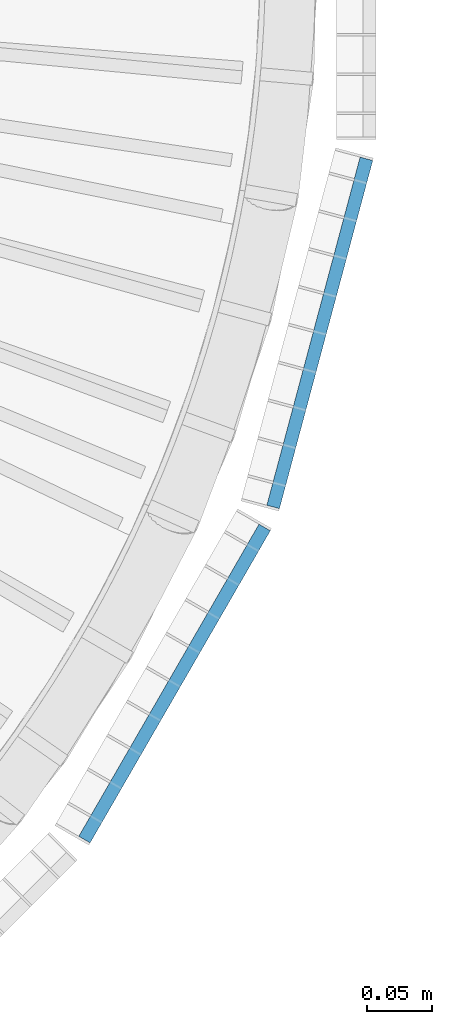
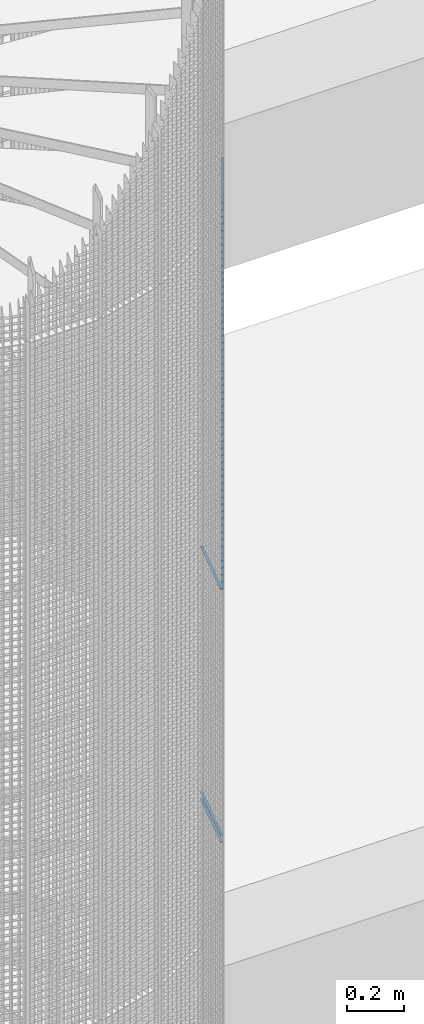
# One storey, part 245 of 1183: 59 beams, 2 elements without a shape of their own.
"""IFC2X3 building model written with IfcOpenShell, lengths in millimetres."""

from ifc_helpers import new_model, si_unit, frame, origin_with_axes, origin_2d_with_axis, place, context, subcontext, project, spatial, rectangle, extrude, material, type_object, element, aggregate, save


model = new_model("IFC2X3")

# Units and contexts
model_context = context("Model", 3, precision=1e-05, world=origin_with_axes())
body_context = subcontext(model_context, "Body", "Model", "MODEL_VIEW")
ifc_project = project(units=[si_unit("LENGTHUNIT", "METRE", prefix="MILLI"), si_unit("AREAUNIT", "SQUARE_METRE"), si_unit("VOLUMEUNIT", "CUBIC_METRE"), si_unit("MASSUNIT", "GRAM", prefix="KILO"), si_unit("TIMEUNIT", "SECOND"), si_unit("PLANEANGLEUNIT", "RADIAN"), si_unit("SOLIDANGLEUNIT", "STERADIAN"), si_unit("THERMODYNAMICTEMPERATUREUNIT", "DEGREE_CELSIUS"), si_unit("LUMINOUSINTENSITYUNIT", "LUMEN")], contexts=[model_context])

# Site, building, storey
site_placement = place(None, origin_with_axes())
site = spatial("IfcSite", under=ifc_project, at=site_placement, Name="Undefined", CompositionType="ELEMENT")
building_placement = place(site_placement, origin_with_axes())
building = spatial("IfcBuilding", under=site, at=building_placement, Name="Undefined", CompositionType="ELEMENT")
storey_placement = place(building_placement, origin_with_axes())
storey = spatial("IfcBuildingStorey", under=building, at=storey_placement, Name="Undefined", CompositionType="ELEMENT", Elevation=0.0)

# Assembly, beams
assembly_1_placement = place(storey_placement, origin_with_axes())
assembly_1 = element("IfcElementAssembly", 1, at=assembly_1_placement, inside=storey, Name="BORDURE", AssemblyPlace="NOTDEFINED", PredefinedType="NOTDEFINED")
ifc_material = material(Name="STEEL/S235JR")
beam_type = type_object("IfcBeamType", Name="PL2*10", PredefinedType="NOTDEFINED")
beam_1_placement = place(assembly_1_placement, frame((1039.82309522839, -421.483733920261, 9060.0), z_axis=(0.965925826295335, -0.258819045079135, 0.0), x_axis=(0.258819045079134, 0.965925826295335, 0.0)))
beam_1 = element("IfcBeam", 2, at=beam_1_placement, type_object=beam_type, material=ifc_material, Name="ENTRETOISE", context=body_context, shape_type="SweptSolid", body=[
    extrude(rectangle(XDim=2.0, YDim=10.0, at=origin_2d_with_axis()), frame((275.999999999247, 9.09494701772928e-13, 1.53210777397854e-14), z_axis=(-1.0, 0.0, 0.0), x_axis=(0.0, -1.0, 0.0)), (0.0, 0.0, 1.0), 276.0),
])
beam_2_placement = place(assembly_1_placement, frame((1039.82309522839, -421.483733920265, 10110.0), z_axis=(0.965925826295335, -0.258819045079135, 0.0), x_axis=(0.258819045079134, 0.965925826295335, 0.0)))
beam_2 = element("IfcBeam", 3, at=beam_2_placement, type_object=beam_type, material=ifc_material, Name="ENTRETOISE", context=body_context, shape_type="SweptSolid", body=[
    extrude(rectangle(XDim=2.0, YDim=10.0, at=origin_2d_with_axis()), frame((275.999999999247, 9.09494701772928e-13, 1.53210777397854e-14), z_axis=(-1.0, 0.0, 0.0), x_axis=(0.0, -1.0, 0.0)), (0.0, 0.0, 1.0), 276.0),
])
beam_3_placement = place(assembly_1_placement, frame((1039.82309522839, -421.48373392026, 9030.0), z_axis=(0.965925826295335, -0.258819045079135, 0.0), x_axis=(0.258819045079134, 0.965925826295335, 0.0)))
beam_3 = element("IfcBeam", 4, at=beam_3_placement, type_object=beam_type, material=ifc_material, Name="ENTRETOISE", context=body_context, shape_type="SweptSolid", body=[
    extrude(rectangle(XDim=2.0, YDim=10.0, at=origin_2d_with_axis()), frame((275.999999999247, 9.09494701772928e-13, 1.53210777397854e-14), z_axis=(-1.0, 0.0, 0.0), x_axis=(0.0, -1.0, 0.0)), (0.0, 0.0, 1.0), 276.0),
])
aggregate(assembly_1, [beam_1, beam_2, beam_3])

assembly_2_placement = place(storey_placement, origin_with_axes())
assembly_2 = element("IfcElementAssembly", 5, at=assembly_2_placement, inside=storey, Name="BORDURE", AssemblyPlace="NOTDEFINED", PredefinedType="NOTDEFINED")
beam_4_placement = place(assembly_2_placement, frame((895.303964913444, -676.248044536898, 11970.0), z_axis=(0.866025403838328, -0.49999999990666, 0.0), x_axis=(0.49999999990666, 0.866025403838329, 0.0)))
beam_4 = element("IfcBeam", 6, at=beam_4_placement, type_object=beam_type, material=ifc_material, Name="ENTRETOISE", context=body_context, shape_type="SweptSolid", body=[
    extrude(rectangle(XDim=2.0, YDim=10.0, at=origin_2d_with_axis()), frame((275.999999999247, 9.09494701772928e-13, 1.53210777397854e-14), z_axis=(-1.0, 0.0, 0.0), x_axis=(0.0, -1.0, 0.0)), (0.0, 0.0, 1.0), 276.0),
])
beam_5_placement = place(assembly_2_placement, frame((895.303964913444, -676.248044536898, 11940.0), z_axis=(0.866025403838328, -0.49999999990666, 0.0), x_axis=(0.49999999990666, 0.866025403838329, 0.0)))
beam_5 = element("IfcBeam", 7, at=beam_5_placement, type_object=beam_type, material=ifc_material, Name="ENTRETOISE", context=body_context, shape_type="SweptSolid", body=[
    extrude(rectangle(XDim=2.0, YDim=10.0, at=origin_2d_with_axis()), frame((275.999999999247, 9.09494701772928e-13, 1.53210777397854e-14), z_axis=(-1.0, 0.0, 0.0), x_axis=(0.0, -1.0, 0.0)), (0.0, 0.0, 1.0), 276.0),
])
beam_6_placement = place(assembly_2_placement, frame((895.303964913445, -676.248044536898, 11910.0), z_axis=(0.866025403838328, -0.49999999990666, 0.0), x_axis=(0.49999999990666, 0.866025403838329, 0.0)))
beam_6 = element("IfcBeam", 8, at=beam_6_placement, type_object=beam_type, material=ifc_material, Name="ENTRETOISE", context=body_context, shape_type="SweptSolid", body=[
    extrude(rectangle(XDim=2.0, YDim=10.0, at=origin_2d_with_axis()), frame((275.999999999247, 9.09494701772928e-13, 1.53210777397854e-14), z_axis=(-1.0, 0.0, 0.0), x_axis=(0.0, -1.0, 0.0)), (0.0, 0.0, 1.0), 276.0),
])
beam_7_placement = place(assembly_2_placement, frame((895.303964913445, -676.248044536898, 11880.0), z_axis=(0.866025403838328, -0.49999999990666, 0.0), x_axis=(0.49999999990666, 0.866025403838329, 0.0)))
beam_7 = element("IfcBeam", 9, at=beam_7_placement, type_object=beam_type, material=ifc_material, Name="ENTRETOISE", context=body_context, shape_type="SweptSolid", body=[
    extrude(rectangle(XDim=2.0, YDim=10.0, at=origin_2d_with_axis()), frame((275.999999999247, 9.09494701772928e-13, 1.53210777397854e-14), z_axis=(-1.0, 0.0, 0.0), x_axis=(0.0, -1.0, 0.0)), (0.0, 0.0, 1.0), 276.0),
])
beam_8_placement = place(assembly_2_placement, frame((895.303964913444, -676.248044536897, 11850.0), z_axis=(0.866025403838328, -0.49999999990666, 0.0), x_axis=(0.49999999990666, 0.866025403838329, 0.0)))
beam_8 = element("IfcBeam", 10, at=beam_8_placement, type_object=beam_type, material=ifc_material, Name="ENTRETOISE", context=body_context, shape_type="SweptSolid", body=[
    extrude(rectangle(XDim=2.0, YDim=10.0, at=origin_2d_with_axis()), frame((275.999999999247, 9.09494701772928e-13, 1.53210777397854e-14), z_axis=(-1.0, 0.0, 0.0), x_axis=(0.0, -1.0, 0.0)), (0.0, 0.0, 1.0), 276.0),
])
beam_9_placement = place(assembly_2_placement, frame((895.303964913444, -676.248044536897, 11820.0), z_axis=(0.866025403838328, -0.49999999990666, 0.0), x_axis=(0.49999999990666, 0.866025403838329, 0.0)))
beam_9 = element("IfcBeam", 11, at=beam_9_placement, type_object=beam_type, material=ifc_material, Name="ENTRETOISE", context=body_context, shape_type="SweptSolid", body=[
    extrude(rectangle(XDim=2.0, YDim=10.0, at=origin_2d_with_axis()), frame((275.999999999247, 9.09494701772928e-13, 1.53210777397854e-14), z_axis=(-1.0, 0.0, 0.0), x_axis=(0.0, -1.0, 0.0)), (0.0, 0.0, 1.0), 276.0),
])
beam_10_placement = place(assembly_2_placement, frame((895.303964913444, -676.248044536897, 11790.0), z_axis=(0.866025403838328, -0.49999999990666, 0.0), x_axis=(0.49999999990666, 0.866025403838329, 0.0)))
beam_10 = element("IfcBeam", 12, at=beam_10_placement, type_object=beam_type, material=ifc_material, Name="ENTRETOISE", context=body_context, shape_type="SweptSolid", body=[
    extrude(rectangle(XDim=2.0, YDim=10.0, at=origin_2d_with_axis()), frame((275.999999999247, 9.09494701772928e-13, 1.53210777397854e-14), z_axis=(-1.0, 0.0, 0.0), x_axis=(0.0, -1.0, 0.0)), (0.0, 0.0, 1.0), 276.0),
])
beam_11_placement = place(assembly_2_placement, frame((895.303964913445, -676.248044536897, 11760.0), z_axis=(0.866025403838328, -0.49999999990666, 0.0), x_axis=(0.49999999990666, 0.866025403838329, 0.0)))
beam_11 = element("IfcBeam", 13, at=beam_11_placement, type_object=beam_type, material=ifc_material, Name="ENTRETOISE", context=body_context, shape_type="SweptSolid", body=[
    extrude(rectangle(XDim=2.0, YDim=10.0, at=origin_2d_with_axis()), frame((275.999999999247, 9.09494701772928e-13, 1.53210777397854e-14), z_axis=(-1.0, 0.0, 0.0), x_axis=(0.0, -1.0, 0.0)), (0.0, 0.0, 1.0), 276.0),
])
beam_12_placement = place(assembly_2_placement, frame((895.303964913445, -676.248044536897, 11730.0), z_axis=(0.866025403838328, -0.49999999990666, 0.0), x_axis=(0.49999999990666, 0.866025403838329, 0.0)))
beam_12 = element("IfcBeam", 14, at=beam_12_placement, type_object=beam_type, material=ifc_material, Name="ENTRETOISE", context=body_context, shape_type="SweptSolid", body=[
    extrude(rectangle(XDim=2.0, YDim=10.0, at=origin_2d_with_axis()), frame((275.999999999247, 9.09494701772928e-13, 1.53210777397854e-14), z_axis=(-1.0, 0.0, 0.0), x_axis=(0.0, -1.0, 0.0)), (0.0, 0.0, 1.0), 276.0),
])
beam_13_placement = place(assembly_2_placement, frame((895.303964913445, -676.248044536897, 11700.0), z_axis=(0.866025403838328, -0.49999999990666, 0.0), x_axis=(0.49999999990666, 0.866025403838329, 0.0)))
beam_13 = element("IfcBeam", 15, at=beam_13_placement, type_object=beam_type, material=ifc_material, Name="ENTRETOISE", context=body_context, shape_type="SweptSolid", body=[
    extrude(rectangle(XDim=2.0, YDim=10.0, at=origin_2d_with_axis()), frame((275.999999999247, 9.09494701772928e-13, 1.53210777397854e-14), z_axis=(-1.0, 0.0, 0.0), x_axis=(0.0, -1.0, 0.0)), (0.0, 0.0, 1.0), 276.0),
])
beam_14_placement = place(assembly_2_placement, frame((895.303964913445, -676.248044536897, 11670.0), z_axis=(0.866025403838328, -0.49999999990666, 0.0), x_axis=(0.49999999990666, 0.866025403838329, 0.0)))
beam_14 = element("IfcBeam", 16, at=beam_14_placement, type_object=beam_type, material=ifc_material, Name="ENTRETOISE", context=body_context, shape_type="SweptSolid", body=[
    extrude(rectangle(XDim=2.0, YDim=10.0, at=origin_2d_with_axis()), frame((275.999999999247, 9.09494701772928e-13, 1.53210777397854e-14), z_axis=(-1.0, 0.0, 0.0), x_axis=(0.0, -1.0, 0.0)), (0.0, 0.0, 1.0), 276.0),
])
beam_15_placement = place(assembly_2_placement, frame((895.303964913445, -676.248044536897, 11640.0), z_axis=(0.866025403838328, -0.49999999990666, 0.0), x_axis=(0.49999999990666, 0.866025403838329, 0.0)))
beam_15 = element("IfcBeam", 17, at=beam_15_placement, type_object=beam_type, material=ifc_material, Name="ENTRETOISE", context=body_context, shape_type="SweptSolid", body=[
    extrude(rectangle(XDim=2.0, YDim=10.0, at=origin_2d_with_axis()), frame((275.999999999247, 9.09494701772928e-13, 1.53210777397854e-14), z_axis=(-1.0, 0.0, 0.0), x_axis=(0.0, -1.0, 0.0)), (0.0, 0.0, 1.0), 276.0),
])
beam_16_placement = place(assembly_2_placement, frame((895.303964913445, -676.248044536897, 11610.0), z_axis=(0.866025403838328, -0.49999999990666, 0.0), x_axis=(0.49999999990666, 0.866025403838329, 0.0)))
beam_16 = element("IfcBeam", 18, at=beam_16_placement, type_object=beam_type, material=ifc_material, Name="ENTRETOISE", context=body_context, shape_type="SweptSolid", body=[
    extrude(rectangle(XDim=2.0, YDim=10.0, at=origin_2d_with_axis()), frame((275.999999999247, 9.09494701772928e-13, 1.53210777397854e-14), z_axis=(-1.0, 0.0, 0.0), x_axis=(0.0, -1.0, 0.0)), (0.0, 0.0, 1.0), 276.0),
])
beam_17_placement = place(assembly_2_placement, frame((895.303964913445, -676.248044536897, 11580.0), z_axis=(0.866025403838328, -0.49999999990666, 0.0), x_axis=(0.49999999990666, 0.866025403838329, 0.0)))
beam_17 = element("IfcBeam", 19, at=beam_17_placement, type_object=beam_type, material=ifc_material, Name="ENTRETOISE", context=body_context, shape_type="SweptSolid", body=[
    extrude(rectangle(XDim=2.0, YDim=10.0, at=origin_2d_with_axis()), frame((275.999999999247, 9.09494701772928e-13, 1.53210777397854e-14), z_axis=(-1.0, 0.0, 0.0), x_axis=(0.0, -1.0, 0.0)), (0.0, 0.0, 1.0), 276.0),
])
beam_18_placement = place(assembly_2_placement, frame((895.303964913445, -676.248044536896, 11550.0), z_axis=(0.866025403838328, -0.49999999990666, 0.0), x_axis=(0.49999999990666, 0.866025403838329, 0.0)))
beam_18 = element("IfcBeam", 20, at=beam_18_placement, type_object=beam_type, material=ifc_material, Name="ENTRETOISE", context=body_context, shape_type="SweptSolid", body=[
    extrude(rectangle(XDim=2.0, YDim=10.0, at=origin_2d_with_axis()), frame((275.999999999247, 9.09494701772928e-13, 1.53210777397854e-14), z_axis=(-1.0, 0.0, 0.0), x_axis=(0.0, -1.0, 0.0)), (0.0, 0.0, 1.0), 276.0),
])
beam_19_placement = place(assembly_2_placement, frame((895.303964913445, -676.248044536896, 11520.0), z_axis=(0.866025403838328, -0.49999999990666, 0.0), x_axis=(0.49999999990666, 0.866025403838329, 0.0)))
beam_19 = element("IfcBeam", 21, at=beam_19_placement, type_object=beam_type, material=ifc_material, Name="ENTRETOISE", context=body_context, shape_type="SweptSolid", body=[
    extrude(rectangle(XDim=2.0, YDim=10.0, at=origin_2d_with_axis()), frame((275.999999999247, 9.09494701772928e-13, 1.53210777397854e-14), z_axis=(-1.0, 0.0, 0.0), x_axis=(0.0, -1.0, 0.0)), (0.0, 0.0, 1.0), 276.0),
])
beam_20_placement = place(assembly_2_placement, frame((895.303964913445, -676.248044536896, 11490.0), z_axis=(0.866025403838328, -0.49999999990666, 0.0), x_axis=(0.49999999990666, 0.866025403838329, 0.0)))
beam_20 = element("IfcBeam", 22, at=beam_20_placement, type_object=beam_type, material=ifc_material, Name="ENTRETOISE", context=body_context, shape_type="SweptSolid", body=[
    extrude(rectangle(XDim=2.0, YDim=10.0, at=origin_2d_with_axis()), frame((275.999999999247, 9.09494701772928e-13, 1.53210777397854e-14), z_axis=(-1.0, 0.0, 0.0), x_axis=(0.0, -1.0, 0.0)), (0.0, 0.0, 1.0), 276.0),
])
beam_21_placement = place(assembly_2_placement, frame((895.303964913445, -676.248044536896, 11460.0), z_axis=(0.866025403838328, -0.49999999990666, 0.0), x_axis=(0.49999999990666, 0.866025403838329, 0.0)))
beam_21 = element("IfcBeam", 23, at=beam_21_placement, type_object=beam_type, material=ifc_material, Name="ENTRETOISE", context=body_context, shape_type="SweptSolid", body=[
    extrude(rectangle(XDim=2.0, YDim=10.0, at=origin_2d_with_axis()), frame((275.999999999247, 9.09494701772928e-13, 1.53210777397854e-14), z_axis=(-1.0, 0.0, 0.0), x_axis=(0.0, -1.0, 0.0)), (0.0, 0.0, 1.0), 276.0),
])
beam_22_placement = place(assembly_2_placement, frame((895.303964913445, -676.248044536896, 11430.0), z_axis=(0.866025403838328, -0.49999999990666, 0.0), x_axis=(0.49999999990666, 0.866025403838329, 0.0)))
beam_22 = element("IfcBeam", 24, at=beam_22_placement, type_object=beam_type, material=ifc_material, Name="ENTRETOISE", context=body_context, shape_type="SweptSolid", body=[
    extrude(rectangle(XDim=2.0, YDim=10.0, at=origin_2d_with_axis()), frame((275.999999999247, 9.09494701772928e-13, 1.53210777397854e-14), z_axis=(-1.0, 0.0, 0.0), x_axis=(0.0, -1.0, 0.0)), (0.0, 0.0, 1.0), 276.0),
])
beam_23_placement = place(assembly_2_placement, frame((895.303964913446, -676.248044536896, 11400.0), z_axis=(0.866025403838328, -0.49999999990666, 0.0), x_axis=(0.49999999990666, 0.866025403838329, 0.0)))
beam_23 = element("IfcBeam", 25, at=beam_23_placement, type_object=beam_type, material=ifc_material, Name="ENTRETOISE", context=body_context, shape_type="SweptSolid", body=[
    extrude(rectangle(XDim=2.0, YDim=10.0, at=origin_2d_with_axis()), frame((275.999999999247, 9.09494701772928e-13, 1.53210777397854e-14), z_axis=(-1.0, 0.0, 0.0), x_axis=(0.0, -1.0, 0.0)), (0.0, 0.0, 1.0), 276.0),
])
beam_24_placement = place(assembly_2_placement, frame((895.303964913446, -676.248044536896, 11370.0), z_axis=(0.866025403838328, -0.49999999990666, 0.0), x_axis=(0.49999999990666, 0.866025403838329, 0.0)))
beam_24 = element("IfcBeam", 26, at=beam_24_placement, type_object=beam_type, material=ifc_material, Name="ENTRETOISE", context=body_context, shape_type="SweptSolid", body=[
    extrude(rectangle(XDim=2.0, YDim=10.0, at=origin_2d_with_axis()), frame((275.999999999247, 9.09494701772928e-13, 1.53210777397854e-14), z_axis=(-1.0, 0.0, 0.0), x_axis=(0.0, -1.0, 0.0)), (0.0, 0.0, 1.0), 276.0),
])
beam_25_placement = place(assembly_2_placement, frame((895.303964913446, -676.248044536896, 11340.0), z_axis=(0.866025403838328, -0.49999999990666, 0.0), x_axis=(0.49999999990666, 0.866025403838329, 0.0)))
beam_25 = element("IfcBeam", 27, at=beam_25_placement, type_object=beam_type, material=ifc_material, Name="ENTRETOISE", context=body_context, shape_type="SweptSolid", body=[
    extrude(rectangle(XDim=2.0, YDim=10.0, at=origin_2d_with_axis()), frame((275.999999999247, 9.09494701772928e-13, 1.53210777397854e-14), z_axis=(-1.0, 0.0, 0.0), x_axis=(0.0, -1.0, 0.0)), (0.0, 0.0, 1.0), 276.0),
])
beam_26_placement = place(assembly_2_placement, frame((895.303964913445, -676.248044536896, 11310.0), z_axis=(0.866025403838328, -0.49999999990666, 0.0), x_axis=(0.49999999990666, 0.866025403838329, 0.0)))
beam_26 = element("IfcBeam", 28, at=beam_26_placement, type_object=beam_type, material=ifc_material, Name="ENTRETOISE", context=body_context, shape_type="SweptSolid", body=[
    extrude(rectangle(XDim=2.0, YDim=10.0, at=origin_2d_with_axis()), frame((275.999999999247, 9.09494701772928e-13, 1.53210777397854e-14), z_axis=(-1.0, 0.0, 0.0), x_axis=(0.0, -1.0, 0.0)), (0.0, 0.0, 1.0), 276.0),
])
beam_27_placement = place(assembly_2_placement, frame((895.303964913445, -676.248044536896, 11280.0), z_axis=(0.866025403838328, -0.49999999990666, 0.0), x_axis=(0.49999999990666, 0.866025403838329, 0.0)))
beam_27 = element("IfcBeam", 29, at=beam_27_placement, type_object=beam_type, material=ifc_material, Name="ENTRETOISE", context=body_context, shape_type="SweptSolid", body=[
    extrude(rectangle(XDim=2.0, YDim=10.0, at=origin_2d_with_axis()), frame((275.999999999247, 9.09494701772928e-13, 1.53210777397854e-14), z_axis=(-1.0, 0.0, 0.0), x_axis=(0.0, -1.0, 0.0)), (0.0, 0.0, 1.0), 276.0),
])
beam_28_placement = place(assembly_2_placement, frame((895.303964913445, -676.248044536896, 11250.0), z_axis=(0.866025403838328, -0.49999999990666, 0.0), x_axis=(0.49999999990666, 0.866025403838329, 0.0)))
beam_28 = element("IfcBeam", 30, at=beam_28_placement, type_object=beam_type, material=ifc_material, Name="ENTRETOISE", context=body_context, shape_type="SweptSolid", body=[
    extrude(rectangle(XDim=2.0, YDim=10.0, at=origin_2d_with_axis()), frame((275.999999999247, 9.09494701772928e-13, 1.53210777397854e-14), z_axis=(-1.0, 0.0, 0.0), x_axis=(0.0, -1.0, 0.0)), (0.0, 0.0, 1.0), 276.0),
])
beam_29_placement = place(assembly_2_placement, frame((895.303964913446, -676.248044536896, 11220.0), z_axis=(0.866025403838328, -0.49999999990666, 0.0), x_axis=(0.49999999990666, 0.866025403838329, 0.0)))
beam_29 = element("IfcBeam", 31, at=beam_29_placement, type_object=beam_type, material=ifc_material, Name="ENTRETOISE", context=body_context, shape_type="SweptSolid", body=[
    extrude(rectangle(XDim=2.0, YDim=10.0, at=origin_2d_with_axis()), frame((275.999999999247, 9.09494701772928e-13, 1.53210777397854e-14), z_axis=(-1.0, 0.0, 0.0), x_axis=(0.0, -1.0, 0.0)), (0.0, 0.0, 1.0), 276.0),
])
beam_30_placement = place(assembly_2_placement, frame((895.303964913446, -676.248044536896, 11190.0), z_axis=(0.866025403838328, -0.49999999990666, 0.0), x_axis=(0.49999999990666, 0.866025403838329, 0.0)))
beam_30 = element("IfcBeam", 32, at=beam_30_placement, type_object=beam_type, material=ifc_material, Name="ENTRETOISE", context=body_context, shape_type="SweptSolid", body=[
    extrude(rectangle(XDim=2.0, YDim=10.0, at=origin_2d_with_axis()), frame((275.999999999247, 9.09494701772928e-13, 1.53210777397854e-14), z_axis=(-1.0, 0.0, 0.0), x_axis=(0.0, -1.0, 0.0)), (0.0, 0.0, 1.0), 276.0),
])
beam_31_placement = place(assembly_2_placement, frame((895.303964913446, -676.248044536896, 11160.0), z_axis=(0.866025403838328, -0.49999999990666, 0.0), x_axis=(0.49999999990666, 0.866025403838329, 0.0)))
beam_31 = element("IfcBeam", 33, at=beam_31_placement, type_object=beam_type, material=ifc_material, Name="ENTRETOISE", context=body_context, shape_type="SweptSolid", body=[
    extrude(rectangle(XDim=2.0, YDim=10.0, at=origin_2d_with_axis()), frame((275.999999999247, 9.09494701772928e-13, 1.53210777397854e-14), z_axis=(-1.0, 0.0, 0.0), x_axis=(0.0, -1.0, 0.0)), (0.0, 0.0, 1.0), 276.0),
])
beam_32_placement = place(assembly_2_placement, frame((895.303964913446, -676.248044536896, 11130.0), z_axis=(0.866025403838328, -0.49999999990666, 0.0), x_axis=(0.49999999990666, 0.866025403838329, 0.0)))
beam_32 = element("IfcBeam", 34, at=beam_32_placement, type_object=beam_type, material=ifc_material, Name="ENTRETOISE", context=body_context, shape_type="SweptSolid", body=[
    extrude(rectangle(XDim=2.0, YDim=10.0, at=origin_2d_with_axis()), frame((275.999999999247, 9.09494701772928e-13, 1.53210777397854e-14), z_axis=(-1.0, 0.0, 0.0), x_axis=(0.0, -1.0, 0.0)), (0.0, 0.0, 1.0), 276.0),
])
beam_33_placement = place(assembly_2_placement, frame((895.303964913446, -676.248044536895, 11100.0), z_axis=(0.866025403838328, -0.49999999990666, 0.0), x_axis=(0.49999999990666, 0.866025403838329, 0.0)))
beam_33 = element("IfcBeam", 35, at=beam_33_placement, type_object=beam_type, material=ifc_material, Name="ENTRETOISE", context=body_context, shape_type="SweptSolid", body=[
    extrude(rectangle(XDim=2.0, YDim=10.0, at=origin_2d_with_axis()), frame((275.999999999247, 9.09494701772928e-13, 1.53210777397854e-14), z_axis=(-1.0, 0.0, 0.0), x_axis=(0.0, -1.0, 0.0)), (0.0, 0.0, 1.0), 276.0),
])
beam_34_placement = place(assembly_2_placement, frame((895.303964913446, -676.248044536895, 11070.0), z_axis=(0.866025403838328, -0.49999999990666, 0.0), x_axis=(0.49999999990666, 0.866025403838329, 0.0)))
beam_34 = element("IfcBeam", 36, at=beam_34_placement, type_object=beam_type, material=ifc_material, Name="ENTRETOISE", context=body_context, shape_type="SweptSolid", body=[
    extrude(rectangle(XDim=2.0, YDim=10.0, at=origin_2d_with_axis()), frame((275.999999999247, 9.09494701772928e-13, 1.53210777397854e-14), z_axis=(-1.0, 0.0, 0.0), x_axis=(0.0, -1.0, 0.0)), (0.0, 0.0, 1.0), 276.0),
])
beam_35_placement = place(assembly_2_placement, frame((895.303964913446, -676.248044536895, 11040.0), z_axis=(0.866025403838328, -0.49999999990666, 0.0), x_axis=(0.49999999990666, 0.866025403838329, 0.0)))
beam_35 = element("IfcBeam", 37, at=beam_35_placement, type_object=beam_type, material=ifc_material, Name="ENTRETOISE", context=body_context, shape_type="SweptSolid", body=[
    extrude(rectangle(XDim=2.0, YDim=10.0, at=origin_2d_with_axis()), frame((275.999999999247, 9.09494701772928e-13, 1.53210777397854e-14), z_axis=(-1.0, 0.0, 0.0), x_axis=(0.0, -1.0, 0.0)), (0.0, 0.0, 1.0), 276.0),
])
beam_36_placement = place(assembly_2_placement, frame((895.303964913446, -676.248044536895, 11010.0), z_axis=(0.866025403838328, -0.49999999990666, 0.0), x_axis=(0.49999999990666, 0.866025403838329, 0.0)))
beam_36 = element("IfcBeam", 38, at=beam_36_placement, type_object=beam_type, material=ifc_material, Name="ENTRETOISE", context=body_context, shape_type="SweptSolid", body=[
    extrude(rectangle(XDim=2.0, YDim=10.0, at=origin_2d_with_axis()), frame((275.999999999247, 9.09494701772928e-13, 1.53210777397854e-14), z_axis=(-1.0, 0.0, 0.0), x_axis=(0.0, -1.0, 0.0)), (0.0, 0.0, 1.0), 276.0),
])
beam_37_placement = place(assembly_2_placement, frame((895.303964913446, -676.248044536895, 10980.0), z_axis=(0.866025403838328, -0.49999999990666, 0.0), x_axis=(0.49999999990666, 0.866025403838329, 0.0)))
beam_37 = element("IfcBeam", 39, at=beam_37_placement, type_object=beam_type, material=ifc_material, Name="ENTRETOISE", context=body_context, shape_type="SweptSolid", body=[
    extrude(rectangle(XDim=2.0, YDim=10.0, at=origin_2d_with_axis()), frame((275.999999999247, 9.09494701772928e-13, 1.53210777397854e-14), z_axis=(-1.0, 0.0, 0.0), x_axis=(0.0, -1.0, 0.0)), (0.0, 0.0, 1.0), 276.0),
])
beam_38_placement = place(assembly_2_placement, frame((895.303964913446, -676.248044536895, 10950.0), z_axis=(0.866025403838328, -0.49999999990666, 0.0), x_axis=(0.49999999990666, 0.866025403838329, 0.0)))
beam_38 = element("IfcBeam", 40, at=beam_38_placement, type_object=beam_type, material=ifc_material, Name="ENTRETOISE", context=body_context, shape_type="SweptSolid", body=[
    extrude(rectangle(XDim=2.0, YDim=10.0, at=origin_2d_with_axis()), frame((275.999999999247, 9.09494701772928e-13, 1.53210777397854e-14), z_axis=(-1.0, 0.0, 0.0), x_axis=(0.0, -1.0, 0.0)), (0.0, 0.0, 1.0), 276.0),
])
beam_39_placement = place(assembly_2_placement, frame((895.303964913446, -676.248044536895, 10920.0), z_axis=(0.866025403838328, -0.49999999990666, 0.0), x_axis=(0.49999999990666, 0.866025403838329, 0.0)))
beam_39 = element("IfcBeam", 41, at=beam_39_placement, type_object=beam_type, material=ifc_material, Name="ENTRETOISE", context=body_context, shape_type="SweptSolid", body=[
    extrude(rectangle(XDim=2.0, YDim=10.0, at=origin_2d_with_axis()), frame((275.999999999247, 9.09494701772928e-13, 1.53210777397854e-14), z_axis=(-1.0, 0.0, 0.0), x_axis=(0.0, -1.0, 0.0)), (0.0, 0.0, 1.0), 276.0),
])
beam_40_placement = place(assembly_2_placement, frame((895.303964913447, -676.248044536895, 10890.0), z_axis=(0.866025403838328, -0.49999999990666, 0.0), x_axis=(0.49999999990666, 0.866025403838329, 0.0)))
beam_40 = element("IfcBeam", 42, at=beam_40_placement, type_object=beam_type, material=ifc_material, Name="ENTRETOISE", context=body_context, shape_type="SweptSolid", body=[
    extrude(rectangle(XDim=2.0, YDim=10.0, at=origin_2d_with_axis()), frame((275.999999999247, 9.09494701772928e-13, 1.53210777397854e-14), z_axis=(-1.0, 0.0, 0.0), x_axis=(0.0, -1.0, 0.0)), (0.0, 0.0, 1.0), 276.0),
])
beam_41_placement = place(assembly_2_placement, frame((895.303964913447, -676.248044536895, 10860.0), z_axis=(0.866025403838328, -0.49999999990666, 0.0), x_axis=(0.49999999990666, 0.866025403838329, 0.0)))
beam_41 = element("IfcBeam", 43, at=beam_41_placement, type_object=beam_type, material=ifc_material, Name="ENTRETOISE", context=body_context, shape_type="SweptSolid", body=[
    extrude(rectangle(XDim=2.0, YDim=10.0, at=origin_2d_with_axis()), frame((275.999999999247, 9.09494701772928e-13, 1.53210777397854e-14), z_axis=(-1.0, 0.0, 0.0), x_axis=(0.0, -1.0, 0.0)), (0.0, 0.0, 1.0), 276.0),
])
beam_42_placement = place(assembly_2_placement, frame((895.303964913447, -676.248044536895, 10830.0), z_axis=(0.866025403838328, -0.49999999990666, 0.0), x_axis=(0.49999999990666, 0.866025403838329, 0.0)))
beam_42 = element("IfcBeam", 44, at=beam_42_placement, type_object=beam_type, material=ifc_material, Name="ENTRETOISE", context=body_context, shape_type="SweptSolid", body=[
    extrude(rectangle(XDim=2.0, YDim=10.0, at=origin_2d_with_axis()), frame((275.999999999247, 9.09494701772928e-13, 1.53210777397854e-14), z_axis=(-1.0, 0.0, 0.0), x_axis=(0.0, -1.0, 0.0)), (0.0, 0.0, 1.0), 276.0),
])
beam_43_placement = place(assembly_2_placement, frame((895.303964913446, -676.248044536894, 10800.0), z_axis=(0.866025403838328, -0.49999999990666, 0.0), x_axis=(0.49999999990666, 0.866025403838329, 0.0)))
beam_43 = element("IfcBeam", 45, at=beam_43_placement, type_object=beam_type, material=ifc_material, Name="ENTRETOISE", context=body_context, shape_type="SweptSolid", body=[
    extrude(rectangle(XDim=2.0, YDim=10.0, at=origin_2d_with_axis()), frame((275.999999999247, 9.09494701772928e-13, 1.53210777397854e-14), z_axis=(-1.0, 0.0, 0.0), x_axis=(0.0, -1.0, 0.0)), (0.0, 0.0, 1.0), 276.0),
])
beam_44_placement = place(assembly_2_placement, frame((895.303964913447, -676.248044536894, 10770.0), z_axis=(0.866025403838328, -0.49999999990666, 0.0), x_axis=(0.49999999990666, 0.866025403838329, 0.0)))
beam_44 = element("IfcBeam", 46, at=beam_44_placement, type_object=beam_type, material=ifc_material, Name="ENTRETOISE", context=body_context, shape_type="SweptSolid", body=[
    extrude(rectangle(XDim=2.0, YDim=10.0, at=origin_2d_with_axis()), frame((275.999999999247, 9.09494701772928e-13, 1.53210777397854e-14), z_axis=(-1.0, 0.0, 0.0), x_axis=(0.0, -1.0, 0.0)), (0.0, 0.0, 1.0), 276.0),
])
beam_45_placement = place(assembly_2_placement, frame((895.303964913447, -676.248044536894, 10740.0), z_axis=(0.866025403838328, -0.49999999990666, 0.0), x_axis=(0.49999999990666, 0.866025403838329, 0.0)))
beam_45 = element("IfcBeam", 47, at=beam_45_placement, type_object=beam_type, material=ifc_material, Name="ENTRETOISE", context=body_context, shape_type="SweptSolid", body=[
    extrude(rectangle(XDim=2.0, YDim=10.0, at=origin_2d_with_axis()), frame((275.999999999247, 9.09494701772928e-13, 1.53210777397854e-14), z_axis=(-1.0, 0.0, 0.0), x_axis=(0.0, -1.0, 0.0)), (0.0, 0.0, 1.0), 276.0),
])
beam_46_placement = place(assembly_2_placement, frame((895.303964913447, -676.248044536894, 10710.0), z_axis=(0.866025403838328, -0.49999999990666, 0.0), x_axis=(0.49999999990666, 0.866025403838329, 0.0)))
beam_46 = element("IfcBeam", 48, at=beam_46_placement, type_object=beam_type, material=ifc_material, Name="ENTRETOISE", context=body_context, shape_type="SweptSolid", body=[
    extrude(rectangle(XDim=2.0, YDim=10.0, at=origin_2d_with_axis()), frame((275.999999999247, 9.09494701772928e-13, 1.53210777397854e-14), z_axis=(-1.0, 0.0, 0.0), x_axis=(0.0, -1.0, 0.0)), (0.0, 0.0, 1.0), 276.0),
])
beam_47_placement = place(assembly_2_placement, frame((895.303964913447, -676.248044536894, 10680.0), z_axis=(0.866025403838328, -0.49999999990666, 0.0), x_axis=(0.49999999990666, 0.866025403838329, 0.0)))
beam_47 = element("IfcBeam", 49, at=beam_47_placement, type_object=beam_type, material=ifc_material, Name="ENTRETOISE", context=body_context, shape_type="SweptSolid", body=[
    extrude(rectangle(XDim=2.0, YDim=10.0, at=origin_2d_with_axis()), frame((275.999999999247, 9.09494701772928e-13, 1.53210777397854e-14), z_axis=(-1.0, 0.0, 0.0), x_axis=(0.0, -1.0, 0.0)), (0.0, 0.0, 1.0), 276.0),
])
beam_48_placement = place(assembly_2_placement, frame((895.303964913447, -676.248044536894, 10650.0), z_axis=(0.866025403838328, -0.49999999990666, 0.0), x_axis=(0.49999999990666, 0.866025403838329, 0.0)))
beam_48 = element("IfcBeam", 50, at=beam_48_placement, type_object=beam_type, material=ifc_material, Name="ENTRETOISE", context=body_context, shape_type="SweptSolid", body=[
    extrude(rectangle(XDim=2.0, YDim=10.0, at=origin_2d_with_axis()), frame((275.999999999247, 9.09494701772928e-13, 1.53210777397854e-14), z_axis=(-1.0, 0.0, 0.0), x_axis=(0.0, -1.0, 0.0)), (0.0, 0.0, 1.0), 276.0),
])
beam_49_placement = place(assembly_2_placement, frame((895.303964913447, -676.248044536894, 10620.0), z_axis=(0.866025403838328, -0.49999999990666, 0.0), x_axis=(0.49999999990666, 0.866025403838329, 0.0)))
beam_49 = element("IfcBeam", 51, at=beam_49_placement, type_object=beam_type, material=ifc_material, Name="ENTRETOISE", context=body_context, shape_type="SweptSolid", body=[
    extrude(rectangle(XDim=2.0, YDim=10.0, at=origin_2d_with_axis()), frame((275.999999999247, 9.09494701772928e-13, 1.53210777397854e-14), z_axis=(-1.0, 0.0, 0.0), x_axis=(0.0, -1.0, 0.0)), (0.0, 0.0, 1.0), 276.0),
])
beam_50_placement = place(assembly_2_placement, frame((895.303964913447, -676.248044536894, 10590.0), z_axis=(0.866025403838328, -0.49999999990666, 0.0), x_axis=(0.49999999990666, 0.866025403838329, 0.0)))
beam_50 = element("IfcBeam", 52, at=beam_50_placement, type_object=beam_type, material=ifc_material, Name="ENTRETOISE", context=body_context, shape_type="SweptSolid", body=[
    extrude(rectangle(XDim=2.0, YDim=10.0, at=origin_2d_with_axis()), frame((275.999999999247, 9.09494701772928e-13, 1.53210777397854e-14), z_axis=(-1.0, 0.0, 0.0), x_axis=(0.0, -1.0, 0.0)), (0.0, 0.0, 1.0), 276.0),
])
beam_51_placement = place(assembly_2_placement, frame((895.303964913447, -676.248044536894, 10560.0), z_axis=(0.866025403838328, -0.49999999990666, 0.0), x_axis=(0.49999999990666, 0.866025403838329, 0.0)))
beam_51 = element("IfcBeam", 53, at=beam_51_placement, type_object=beam_type, material=ifc_material, Name="ENTRETOISE", context=body_context, shape_type="SweptSolid", body=[
    extrude(rectangle(XDim=2.0, YDim=10.0, at=origin_2d_with_axis()), frame((275.999999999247, 9.09494701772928e-13, 1.53210777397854e-14), z_axis=(-1.0, 0.0, 0.0), x_axis=(0.0, -1.0, 0.0)), (0.0, 0.0, 1.0), 276.0),
])
beam_52_placement = place(assembly_2_placement, frame((895.303964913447, -676.248044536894, 10530.0), z_axis=(0.866025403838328, -0.49999999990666, 0.0), x_axis=(0.49999999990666, 0.866025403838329, 0.0)))
beam_52 = element("IfcBeam", 54, at=beam_52_placement, type_object=beam_type, material=ifc_material, Name="ENTRETOISE", context=body_context, shape_type="SweptSolid", body=[
    extrude(rectangle(XDim=2.0, YDim=10.0, at=origin_2d_with_axis()), frame((275.999999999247, 9.09494701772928e-13, 1.53210777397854e-14), z_axis=(-1.0, 0.0, 0.0), x_axis=(0.0, -1.0, 0.0)), (0.0, 0.0, 1.0), 276.0),
])
beam_53_placement = place(assembly_2_placement, frame((895.303964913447, -676.248044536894, 10500.0), z_axis=(0.866025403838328, -0.49999999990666, 0.0), x_axis=(0.49999999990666, 0.866025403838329, 0.0)))
beam_53 = element("IfcBeam", 55, at=beam_53_placement, type_object=beam_type, material=ifc_material, Name="ENTRETOISE", context=body_context, shape_type="SweptSolid", body=[
    extrude(rectangle(XDim=2.0, YDim=10.0, at=origin_2d_with_axis()), frame((275.999999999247, 9.09494701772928e-13, 1.53210777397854e-14), z_axis=(-1.0, 0.0, 0.0), x_axis=(0.0, -1.0, 0.0)), (0.0, 0.0, 1.0), 276.0),
])
beam_54_placement = place(assembly_2_placement, frame((895.303964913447, -676.248044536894, 10470.0), z_axis=(0.866025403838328, -0.49999999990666, 0.0), x_axis=(0.49999999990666, 0.866025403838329, 0.0)))
beam_54 = element("IfcBeam", 56, at=beam_54_placement, type_object=beam_type, material=ifc_material, Name="ENTRETOISE", context=body_context, shape_type="SweptSolid", body=[
    extrude(rectangle(XDim=2.0, YDim=10.0, at=origin_2d_with_axis()), frame((275.999999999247, 9.09494701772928e-13, 1.53210777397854e-14), z_axis=(-1.0, 0.0, 0.0), x_axis=(0.0, -1.0, 0.0)), (0.0, 0.0, 1.0), 276.0),
])
beam_55_placement = place(assembly_2_placement, frame((895.303964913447, -676.248044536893, 10440.0), z_axis=(0.866025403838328, -0.49999999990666, 0.0), x_axis=(0.49999999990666, 0.866025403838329, 0.0)))
beam_55 = element("IfcBeam", 57, at=beam_55_placement, type_object=beam_type, material=ifc_material, Name="ENTRETOISE", context=body_context, shape_type="SweptSolid", body=[
    extrude(rectangle(XDim=2.0, YDim=10.0, at=origin_2d_with_axis()), frame((275.999999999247, 9.09494701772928e-13, 1.53210777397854e-14), z_axis=(-1.0, 0.0, 0.0), x_axis=(0.0, -1.0, 0.0)), (0.0, 0.0, 1.0), 276.0),
])
beam_56_placement = place(assembly_2_placement, frame((895.303964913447, -676.248044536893, 10410.0), z_axis=(0.866025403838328, -0.49999999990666, 0.0), x_axis=(0.49999999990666, 0.866025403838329, 0.0)))
beam_56 = element("IfcBeam", 58, at=beam_56_placement, type_object=beam_type, material=ifc_material, Name="ENTRETOISE", context=body_context, shape_type="SweptSolid", body=[
    extrude(rectangle(XDim=2.0, YDim=10.0, at=origin_2d_with_axis()), frame((275.999999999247, 9.09494701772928e-13, 1.53210777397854e-14), z_axis=(-1.0, 0.0, 0.0), x_axis=(0.0, -1.0, 0.0)), (0.0, 0.0, 1.0), 276.0),
])
beam_57_placement = place(assembly_2_placement, frame((895.303964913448, -676.248044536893, 10380.0), z_axis=(0.866025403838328, -0.49999999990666, 0.0), x_axis=(0.49999999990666, 0.866025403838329, 0.0)))
beam_57 = element("IfcBeam", 59, at=beam_57_placement, type_object=beam_type, material=ifc_material, Name="ENTRETOISE", context=body_context, shape_type="SweptSolid", body=[
    extrude(rectangle(XDim=2.0, YDim=10.0, at=origin_2d_with_axis()), frame((275.999999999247, 9.09494701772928e-13, 1.53210777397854e-14), z_axis=(-1.0, 0.0, 0.0), x_axis=(0.0, -1.0, 0.0)), (0.0, 0.0, 1.0), 276.0),
])
beam_58_placement = place(assembly_2_placement, frame((895.303964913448, -676.248044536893, 10350.0), z_axis=(0.866025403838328, -0.49999999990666, 0.0), x_axis=(0.49999999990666, 0.866025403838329, 0.0)))
beam_58 = element("IfcBeam", 60, at=beam_58_placement, type_object=beam_type, material=ifc_material, Name="ENTRETOISE", context=body_context, shape_type="SweptSolid", body=[
    extrude(rectangle(XDim=2.0, YDim=10.0, at=origin_2d_with_axis()), frame((275.999999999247, 9.09494701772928e-13, 1.53210777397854e-14), z_axis=(-1.0, 0.0, 0.0), x_axis=(0.0, -1.0, 0.0)), (0.0, 0.0, 1.0), 276.0),
])
beam_59_placement = place(assembly_2_placement, frame((895.303964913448, -676.248044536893, 10320.0), z_axis=(0.866025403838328, -0.49999999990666, 0.0), x_axis=(0.49999999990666, 0.866025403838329, 0.0)))
beam_59 = element("IfcBeam", 61, at=beam_59_placement, type_object=beam_type, material=ifc_material, Name="ENTRETOISE", context=body_context, shape_type="SweptSolid", body=[
    extrude(rectangle(XDim=2.0, YDim=10.0, at=origin_2d_with_axis()), frame((275.999999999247, 9.09494701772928e-13, 1.53210777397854e-14), z_axis=(-1.0, 0.0, 0.0), x_axis=(0.0, -1.0, 0.0)), (0.0, 0.0, 1.0), 276.0),
])
aggregate(assembly_2, [beam_4, beam_5, beam_6, beam_7, beam_8, beam_9, beam_10, beam_11, beam_12, beam_13, beam_14, beam_15, beam_16, beam_17, beam_18, beam_19, beam_20, beam_21, beam_22, beam_23, beam_24, beam_25, beam_26, beam_27, beam_28, beam_29, beam_30, beam_31, beam_32, beam_33, beam_34, beam_35, beam_36, beam_37, beam_38, beam_39, beam_40, beam_41, beam_42, beam_43, beam_44, beam_45, beam_46, beam_47, beam_48, beam_49, beam_50, beam_51, beam_52, beam_53, beam_54, beam_55, beam_56, beam_57, beam_58, beam_59])

save(model, "model.ifc")
